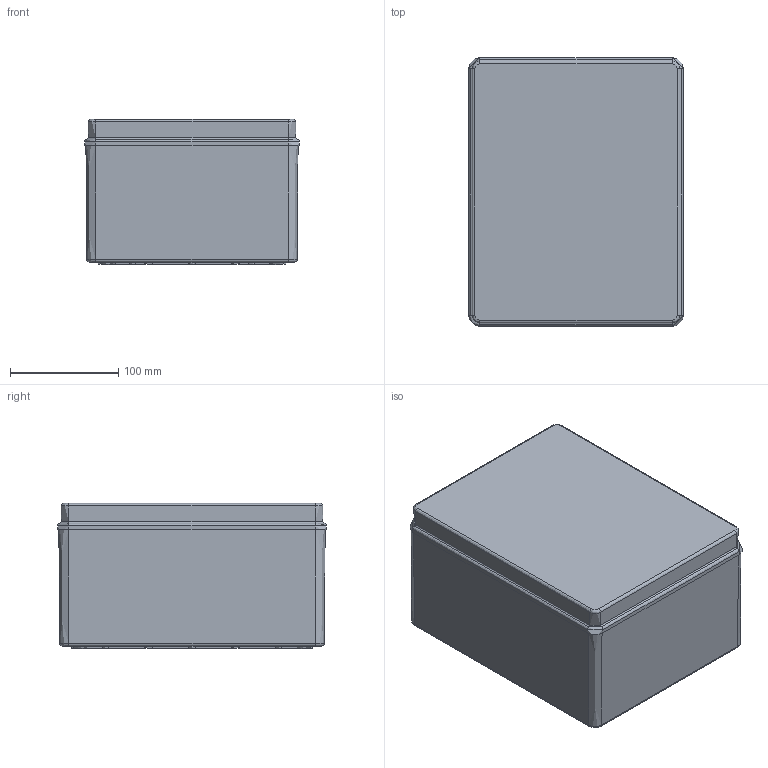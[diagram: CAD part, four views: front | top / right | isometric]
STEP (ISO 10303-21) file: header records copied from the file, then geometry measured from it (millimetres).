
FILE_DESCRIPTION(/* description */ (''),/* implementation_level */ '2;1');
FILE_NAME(/* name */ '4003390.stp',/* time_stamp */ '2016-09-22T14:17:22+02:00',/* author */ (''),/* organization */ (''),/* preprocessor_version */ 'ST-DEVELOPER v16',/* originating_system */ 'SIEMENS PLM Software NX 11.0',/* authorisation */ '');
FILE_SCHEMA (('AUTOMOTIVE_DESIGN { 1 0 10303 214 3 1 1 1 }'));
Length unit declared in the file: millimetre
Products named in the file (1): 4003390_LINKEDEXT_jt
Bounding box: 198.4 x 248.4 x 134.5 mm (x, y, z)
Surface area: 285372.3 mm2 (no closed solid volume)
Topology: 0 solids, 13 shells, 172 faces, 583 edges, 410 vertices
Faces by surface type: plane 77, cone 42, cylinder 26, torus 15, bspline 12
Entity records: 7787 total; most frequent: CARTESIAN_POINT 2607, DIRECTION 956, ORIENTED_EDGE 882, EDGE_CURVE 551, VERTEX_POINT 399, AXIS2_PLACEMENT_3D 334, LINE 288, VECTOR 288
